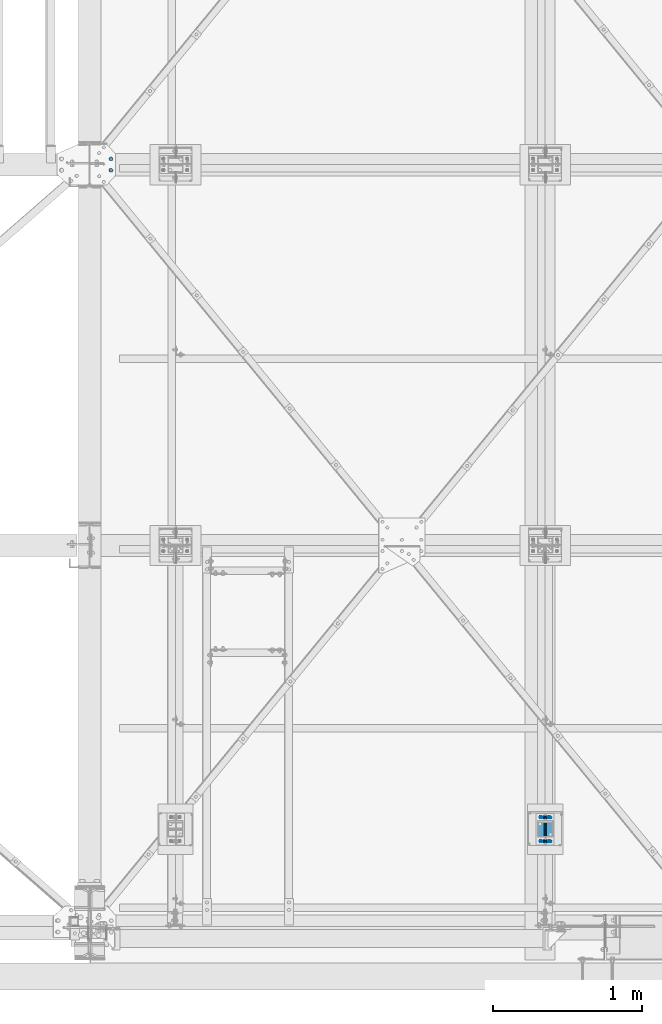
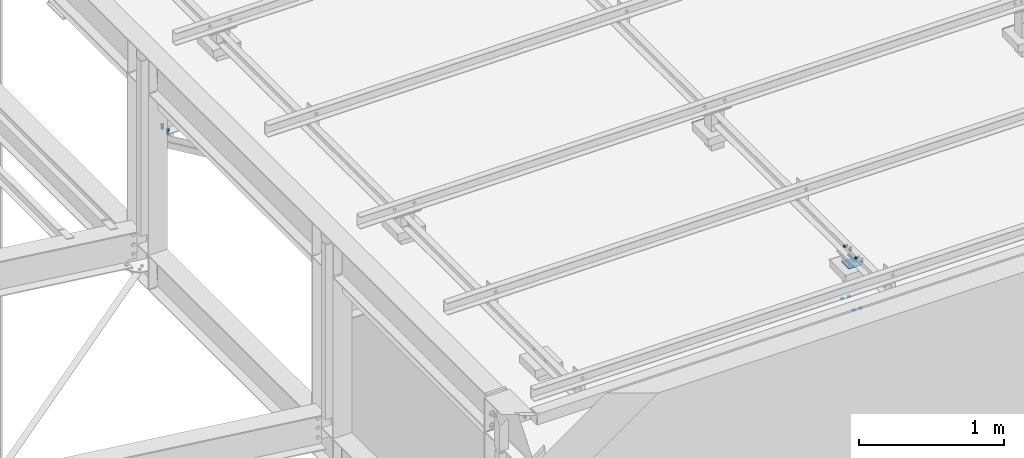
# One storey, part 306 of 3134: 6 mechanical fasteners, 4 elements without a shape of their own.
"""IFC2X3 building model written with IfcOpenShell, lengths in millimetres."""

from ifc_helpers import new_model, si_unit, frame, origin_with_axes, place, context, subcontext, project, spatial, faceted_brep, source, transform, mapped, material, type_object, element, aggregate, save


model = new_model("IFC2X3")

# Units and contexts
model_context = context("Model", 3, precision=1e-05, world=origin_with_axes())
body_context = subcontext(model_context, "Body", "Model", "MODEL_VIEW")
ifc_project = project(units=[si_unit("LENGTHUNIT", "METRE", prefix="MILLI"), si_unit("AREAUNIT", "SQUARE_METRE"), si_unit("VOLUMEUNIT", "CUBIC_METRE"), si_unit("MASSUNIT", "GRAM", prefix="KILO"), si_unit("TIMEUNIT", "SECOND"), si_unit("PLANEANGLEUNIT", "RADIAN"), si_unit("SOLIDANGLEUNIT", "STERADIAN"), si_unit("THERMODYNAMICTEMPERATUREUNIT", "DEGREE_CELSIUS"), si_unit("LUMINOUSINTENSITYUNIT", "LUMEN")], contexts=[model_context])

# Site, building, storey
site_placement = place(None, origin_with_axes())
site = spatial("IfcSite", under=ifc_project, at=site_placement, CompositionType="ELEMENT")
building_placement = place(site_placement, origin_with_axes())
building = spatial("IfcBuilding", under=site, at=building_placement, Name="Undefined", CompositionType="ELEMENT")
storey_placement = place(building_placement, origin_with_axes())
storey = spatial("IfcBuildingStorey", under=building, at=storey_placement, Name="Undefined", CompositionType="ELEMENT", Elevation=0.0)

# Assembly, mechanical fastener
assembly_1_placement = place(storey_placement, origin_with_axes())
assembly_1 = element("IfcElementAssembly", 1, at=assembly_1_placement, inside=storey, AssemblyPlace="NOTDEFINED", PredefinedType="RIGID_FRAME")
ifc_material_1 = material(Name="8.8")
mechanical_fastener_type = type_object("IfcMechanicalFastenerType", Name="Bolt assembly")
shared_shape_1 = source(origin_with_axes(), body_context, "Body", "Brep", [
    faceted_brep([(10.9696551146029, -14.0, 0.0), (5.48482755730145, -14.0, 9.5), (-5.48482755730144, -14.0, 9.5), (-10.9696551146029, -14.0, 1.34339530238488e-15), (-5.48482755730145, -14.0, -9.5), (5.48482755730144, -14.0, -9.50000000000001), (5.48482755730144, -6.0, -9.50000000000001), (-5.48482755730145, -6.0, -9.5), (-10.9696551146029, -6.0, 1.34339530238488e-15), (-5.48482755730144, -6.0, 9.5), (5.48482755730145, -6.0, 9.5), (10.9696551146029, -6.0, 0.0), (6.0, -6.0, 0.0), (5.19615242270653, -6.0, 3.00000000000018), (2.99999999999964, -6.0, 5.19615242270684), (-6.21801588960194e-13, -6.0, 6.0), (-3.00000000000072, -6.0, 5.19615242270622), (-5.19615242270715, -6.0, 2.9999999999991), (-6.0, -6.0, -1.24360317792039e-12), (-5.19615242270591, -6.0, -3.00000000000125), (-2.99999999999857, -6.0, -5.19615242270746), (1.85874342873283e-12, -6.0, -6.0), (3.00000000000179, -6.0, -5.1961524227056), (5.19615242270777, -6.0, -2.99999999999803), (5.19615242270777, 24.0, -2.99999999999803), (3.00000000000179, 24.0, -5.1961524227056), (1.85874342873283e-12, 24.0, -6.0), (-2.99999999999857, 24.0, -5.19615242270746), (-5.19615242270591, 24.0, -3.00000000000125), (-6.0, 24.0, -1.24360317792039e-12), (-5.19615242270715, 24.0, 2.9999999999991), (-3.00000000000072, 24.0, 5.19615242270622), (-6.21801588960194e-13, 24.0, 6.0), (2.99999999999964, 24.0, 5.19615242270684), (5.19615242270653, 24.0, 3.00000000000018), (6.0, 24.0, 0.0), (10.9696551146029, 6.00000000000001, 0.0), (5.48482755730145, 6.00000000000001, 9.5), (-5.48482755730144, 6.00000000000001, 9.5), (-10.9696551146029, 6.00000000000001, 1.34339530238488e-15), (-5.48482755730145, 6.00000000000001, -9.5), (5.48482755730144, 6.00000000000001, -9.50000000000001), (5.48482755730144, 16.0, -9.50000000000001), (-5.48482755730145, 16.0, -9.5), (-10.9696551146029, 16.0, 1.34339530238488e-15), (-5.48482755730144, 16.0, 9.5), (5.48482755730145, 16.0, 9.5), (10.9696551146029, 16.0, 0.0)], [[[0, 1, 2, 3, 4, 5]], [[6, 7, 8, 9, 10, 11]], [[0, 11, 10, 1]], [[1, 10, 9, 2]], [[2, 9, 8, 3]], [[3, 8, 7, 4]], [[4, 7, 6, 5]], [[5, 6, 11, 0]], [[12, 13, 14, 15, 16, 17, 18, 19, 20, 21, 22, 23]], [[24, 25, 26, 27, 28, 29, 30, 31, 32, 33, 34, 35]], [[12, 35, 34, 13]], [[13, 34, 33, 14]], [[14, 33, 32, 15]], [[15, 32, 31, 16]], [[16, 31, 30, 17]], [[17, 30, 29, 18]], [[18, 29, 28, 19]], [[19, 28, 27, 20]], [[20, 27, 26, 21]], [[21, 26, 25, 22]], [[22, 25, 24, 23]], [[23, 24, 35, 12]], [[36, 37, 38, 39, 40, 41]], [[42, 43, 44, 45, 46, 47]], [[36, 47, 46, 37]], [[37, 46, 45, 38]], [[38, 45, 44, 39]], [[39, 44, 43, 40]], [[40, 43, 42, 41]], [[41, 42, 47, 36]]]),
    faceted_brep([(7.0, -5.9, 0.0), (6.06217782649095, -5.9, 3.50000000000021), (3.49999999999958, -5.9, 6.06217782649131), (-7.25435187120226e-13, -5.9, 7.0), (-3.50000000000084, -5.9, 6.06217782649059), (-6.06217782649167, -5.9, 3.49999999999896), (-7.0, -5.9, -1.45087037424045e-12), (-6.06217782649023, -5.9, -3.50000000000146), (-3.49999999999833, -5.9, -6.06217782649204), (2.1685340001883e-12, -5.9, -7.0), (3.50000000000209, -5.9, -6.06217782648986), (6.0621778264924, -5.9, -3.4999999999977), (6.0621778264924, 0.0999999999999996, -3.4999999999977), (3.50000000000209, 0.0999999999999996, -6.06217782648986), (2.1685340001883e-12, 0.0999999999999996, -7.0), (-3.49999999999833, 0.0999999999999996, -6.06217782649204), (-6.06217782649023, 0.0999999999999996, -3.50000000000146), (-7.0, 0.0999999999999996, -1.45087037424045e-12), (-6.06217782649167, 0.0999999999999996, 3.49999999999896), (-3.50000000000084, 0.0999999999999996, 6.06217782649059), (-7.25435187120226e-13, 0.0999999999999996, 7.0), (3.49999999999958, 0.0999999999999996, 6.06217782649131), (6.06217782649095, 0.0999999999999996, 3.50000000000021), (7.0, 0.0999999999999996, 0.0), (7.0, -0.1, 0.0), (6.06217782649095, -0.1, 3.50000000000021), (3.49999999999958, -0.1, 6.06217782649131), (-7.25435187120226e-13, -0.1, 7.0), (-3.50000000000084, -0.1, 6.06217782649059), (-6.06217782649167, -0.1, 3.49999999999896), (-7.0, -0.1, -1.45087037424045e-12), (-6.06217782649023, -0.1, -3.50000000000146), (-3.49999999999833, -0.1, -6.06217782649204), (2.1685340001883e-12, -0.1, -7.0), (3.50000000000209, -0.1, -6.06217782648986), (6.0621778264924, -0.1, -3.4999999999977), (6.0621778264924, 6.00000000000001, -3.4999999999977), (3.50000000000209, 6.00000000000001, -6.06217782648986), (2.1685340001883e-12, 6.00000000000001, -7.0), (-3.49999999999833, 6.00000000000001, -6.06217782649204), (-6.06217782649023, 6.00000000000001, -3.50000000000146), (-7.0, 6.00000000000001, -1.45087037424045e-12), (-6.06217782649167, 6.00000000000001, 3.49999999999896), (-3.50000000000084, 6.00000000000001, 6.06217782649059), (-7.25435187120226e-13, 6.00000000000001, 7.0), (3.49999999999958, 6.00000000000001, 6.06217782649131), (6.06217782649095, 6.00000000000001, 3.50000000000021), (7.0, 6.00000000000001, 0.0)], [[[0, 1, 2, 3, 4, 5, 6, 7, 8, 9, 10, 11]], [[12, 13, 14, 15, 16, 17, 18, 19, 20, 21, 22, 23]], [[0, 23, 22, 1]], [[1, 22, 21, 2]], [[2, 21, 20, 3]], [[3, 20, 19, 4]], [[4, 19, 18, 5]], [[5, 18, 17, 6]], [[6, 17, 16, 7]], [[7, 16, 15, 8]], [[8, 15, 14, 9]], [[9, 14, 13, 10]], [[10, 13, 12, 11]], [[11, 12, 23, 0]], [[24, 25, 26, 27, 28, 29, 30, 31, 32, 33, 34, 35]], [[36, 37, 38, 39, 40, 41, 42, 43, 44, 45, 46, 47]], [[24, 47, 46, 25]], [[25, 46, 45, 26]], [[26, 45, 44, 27]], [[27, 44, 43, 28]], [[28, 43, 42, 29]], [[29, 42, 41, 30]], [[30, 41, 40, 31]], [[31, 40, 39, 32]], [[32, 39, 38, 33]], [[33, 38, 37, 34]], [[34, 37, 36, 35]], [[35, 36, 47, 24]]]),
])
mechanical_fastener_1_placement = place(assembly_1_placement, frame((70635.0, 570.0, 5750.0), z_axis=(-1.0, 0.0, 0.0), x_axis=(0.0, 1.0, 0.0)))
mechanical_fastener_1 = element("IfcMechanicalFastener", 2, at=mechanical_fastener_1_placement, type_object=mechanical_fastener_type, material=ifc_material_1, Name="Bolt assembly", NominalDiameter=12.0, NominalLength=30.0, context=body_context, shape_type="MappedRepresentation", body=[
    mapped(shared_shape_1, transform((0.0, 0.0, 0.0))),
    mapped(shared_shape_1, transform((160.0, 0.0, 0.0))),
])

assembly_2_placement = place(storey_placement, origin_with_axes())
assembly_2 = element("IfcElementAssembly", 3, at=assembly_2_placement, inside=storey, AssemblyPlace="NOTDEFINED", PredefinedType="RIGID_FRAME")
shared_shape_2 = source(origin_with_axes(), body_context, "Body", "Brep", [
    faceted_brep([(10.9696551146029, -14.0, 0.0), (5.48482755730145, -14.0, 9.5), (-5.48482755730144, -14.0, 9.5), (-10.9696551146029, -14.0, 1.34339530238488e-15), (-5.48482755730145, -14.0, -9.5), (5.48482755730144, -14.0, -9.50000000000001), (5.48482755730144, -6.0, -9.50000000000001), (-5.48482755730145, -6.0, -9.5), (-10.9696551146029, -6.0, 1.34339530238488e-15), (-5.48482755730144, -6.0, 9.5), (5.48482755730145, -6.0, 9.5), (10.9696551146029, -6.0, 0.0), (6.0, -6.0, 0.0), (5.19615242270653, -6.0, 3.00000000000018), (2.99999999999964, -6.0, 5.19615242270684), (-6.21801588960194e-13, -6.0, 6.0), (-3.00000000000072, -6.0, 5.19615242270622), (-5.19615242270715, -6.0, 2.9999999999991), (-6.0, -6.0, -1.24360317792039e-12), (-5.19615242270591, -6.0, -3.00000000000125), (-2.99999999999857, -6.0, -5.19615242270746), (1.85874342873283e-12, -6.0, -6.0), (3.00000000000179, -6.0, -5.1961524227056), (5.19615242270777, -6.0, -2.99999999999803), (5.19615242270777, 19.0, -2.99999999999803), (3.00000000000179, 19.0, -5.1961524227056), (1.85874342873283e-12, 19.0, -6.0), (-2.99999999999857, 19.0, -5.19615242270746), (-5.19615242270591, 19.0, -3.00000000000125), (-6.0, 19.0, -1.24360317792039e-12), (-5.19615242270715, 19.0, 2.9999999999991), (-3.00000000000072, 19.0, 5.19615242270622), (-6.21801588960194e-13, 19.0, 6.0), (2.99999999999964, 19.0, 5.19615242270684), (5.19615242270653, 19.0, 3.00000000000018), (6.0, 19.0, 0.0), (10.9696551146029, 4.00000000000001, 0.0), (5.48482755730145, 4.00000000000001, 9.5), (-5.48482755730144, 4.00000000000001, 9.5), (-10.9696551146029, 4.00000000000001, 1.34339530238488e-15), (-5.48482755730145, 4.00000000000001, -9.5), (5.48482755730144, 4.00000000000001, -9.50000000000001), (5.48482755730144, 14.0, -9.50000000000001), (-5.48482755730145, 14.0, -9.5), (-10.9696551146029, 14.0, 1.34339530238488e-15), (-5.48482755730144, 14.0, 9.5), (5.48482755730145, 14.0, 9.5), (10.9696551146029, 14.0, 0.0)], [[[0, 1, 2, 3, 4, 5]], [[6, 7, 8, 9, 10, 11]], [[0, 11, 10, 1]], [[1, 10, 9, 2]], [[2, 9, 8, 3]], [[3, 8, 7, 4]], [[4, 7, 6, 5]], [[5, 6, 11, 0]], [[12, 13, 14, 15, 16, 17, 18, 19, 20, 21, 22, 23]], [[24, 25, 26, 27, 28, 29, 30, 31, 32, 33, 34, 35]], [[12, 35, 34, 13]], [[13, 34, 33, 14]], [[14, 33, 32, 15]], [[15, 32, 31, 16]], [[16, 31, 30, 17]], [[17, 30, 29, 18]], [[18, 29, 28, 19]], [[19, 28, 27, 20]], [[20, 27, 26, 21]], [[21, 26, 25, 22]], [[22, 25, 24, 23]], [[23, 24, 35, 12]], [[36, 37, 38, 39, 40, 41]], [[42, 43, 44, 45, 46, 47]], [[36, 47, 46, 37]], [[37, 46, 45, 38]], [[38, 45, 44, 39]], [[39, 44, 43, 40]], [[40, 43, 42, 41]], [[41, 42, 47, 36]]]),
    faceted_brep([(7.0, -0.1, 0.0), (6.06217782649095, -0.1, 3.50000000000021), (3.49999999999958, -0.1, 6.06217782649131), (-7.25435187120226e-13, -0.1, 7.0), (-3.50000000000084, -0.1, 6.06217782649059), (-6.06217782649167, -0.1, 3.49999999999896), (-7.0, -0.1, -1.45087037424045e-12), (-6.06217782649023, -0.1, -3.50000000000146), (-3.49999999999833, -0.1, -6.06217782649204), (2.1685340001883e-12, -0.1, -7.0), (3.50000000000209, -0.1, -6.06217782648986), (6.0621778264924, -0.1, -3.4999999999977), (6.0621778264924, 4.00000000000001, -3.4999999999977), (3.50000000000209, 4.00000000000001, -6.06217782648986), (2.1685340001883e-12, 4.00000000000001, -7.0), (-3.49999999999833, 4.00000000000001, -6.06217782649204), (-6.06217782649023, 4.00000000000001, -3.50000000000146), (-7.0, 4.00000000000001, -1.45087037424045e-12), (-6.06217782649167, 4.00000000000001, 3.49999999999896), (-3.50000000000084, 4.00000000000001, 6.06217782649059), (-7.25435187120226e-13, 4.00000000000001, 7.0), (3.49999999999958, 4.00000000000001, 6.06217782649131), (6.06217782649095, 4.00000000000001, 3.50000000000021), (7.0, 4.00000000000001, 0.0), (7.0, -5.9, 0.0), (6.06217782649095, -5.9, 3.50000000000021), (3.49999999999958, -5.9, 6.06217782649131), (-7.25435187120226e-13, -5.9, 7.0), (-3.50000000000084, -5.9, 6.06217782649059), (-6.06217782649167, -5.9, 3.49999999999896), (-7.0, -5.9, -1.45087037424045e-12), (-6.06217782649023, -5.9, -3.50000000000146), (-3.49999999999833, -5.9, -6.06217782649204), (2.1685340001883e-12, -5.9, -7.0), (3.50000000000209, -5.9, -6.06217782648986), (6.0621778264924, -5.9, -3.4999999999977), (6.0621778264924, 0.0999999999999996, -3.4999999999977), (3.50000000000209, 0.0999999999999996, -6.06217782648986), (2.1685340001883e-12, 0.0999999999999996, -7.0), (-3.49999999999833, 0.0999999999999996, -6.06217782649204), (-6.06217782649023, 0.0999999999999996, -3.50000000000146), (-7.0, 0.0999999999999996, -1.45087037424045e-12), (-6.06217782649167, 0.0999999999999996, 3.49999999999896), (-3.50000000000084, 0.0999999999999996, 6.06217782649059), (-7.25435187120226e-13, 0.0999999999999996, 7.0), (3.49999999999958, 0.0999999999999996, 6.06217782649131), (6.06217782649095, 0.0999999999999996, 3.50000000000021), (7.0, 0.0999999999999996, 0.0)], [[[0, 1, 2, 3, 4, 5, 6, 7, 8, 9, 10, 11]], [[12, 13, 14, 15, 16, 17, 18, 19, 20, 21, 22, 23]], [[0, 23, 22, 1]], [[1, 22, 21, 2]], [[2, 21, 20, 3]], [[3, 20, 19, 4]], [[4, 19, 18, 5]], [[5, 18, 17, 6]], [[6, 17, 16, 7]], [[7, 16, 15, 8]], [[8, 15, 14, 9]], [[9, 14, 13, 10]], [[10, 13, 12, 11]], [[11, 12, 23, 0]], [[24, 25, 26, 27, 28, 29, 30, 31, 32, 33, 34, 35]], [[36, 37, 38, 39, 40, 41, 42, 43, 44, 45, 46, 47]], [[24, 47, 46, 25]], [[25, 46, 45, 26]], [[26, 45, 44, 27]], [[27, 44, 43, 28]], [[28, 43, 42, 29]], [[29, 42, 41, 30]], [[30, 41, 40, 31]], [[31, 40, 39, 32]], [[32, 39, 38, 33]], [[33, 38, 37, 34]], [[34, 37, 36, 35]], [[35, 36, 47, 24]]]),
])
mechanical_fastener_2_placement = place(assembly_2_placement, frame((70600.0, 570.0, 5785.0), z_axis=(0.0, 0.0, 1.0), x_axis=(0.0, 1.0, 0.0)))
mechanical_fastener_2 = element("IfcMechanicalFastener", 4, at=mechanical_fastener_2_placement, type_object=mechanical_fastener_type, material=ifc_material_1, Name="Bolt assembly", NominalDiameter=12.0, NominalLength=25.0, context=body_context, shape_type="MappedRepresentation", body=[
    mapped(shared_shape_2, transform((0.0, 0.0, 0.0))),
    mapped(shared_shape_2, transform((160.0, 0.0, 0.0))),
])
aggregate(assembly_2, [mechanical_fastener_2])

assembly_3_placement = place(storey_placement, origin_with_axes())
assembly_3 = element("IfcElementAssembly", 5, at=assembly_3_placement, inside=storey, Name="300", AssemblyPlace="NOTDEFINED", PredefinedType="RIGID_FRAME")
shared_shape_3 = source(origin_with_axes(), body_context, "Body", "Brep", [
    faceted_brep([(13.856406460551, -23.1999997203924, 0.0), (6.92820323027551, -23.1999997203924, 12.0), (-6.92820323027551, -23.1999997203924, 12.0), (-13.856406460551, -23.1999997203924, 1.69692038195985e-15), (-6.92820323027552, -23.1999997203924, -12.0), (6.9282032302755, -23.1999997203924, -12.0), (6.9282032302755, -13.1999997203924, -12.0), (-6.92820323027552, -13.1999997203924, -12.0), (-13.856406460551, -13.1999997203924, 1.69692038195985e-15), (-6.92820323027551, -13.1999997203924, 12.0), (6.92820323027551, -13.1999997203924, 12.0), (13.856406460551, -13.1999997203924, 0.0), (8.0, -13.1999997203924, 0.0), (6.92820323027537, -13.1999997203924, 4.00000000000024), (3.99999999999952, -13.1999997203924, 6.92820323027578), (-8.29068785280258e-13, -13.1999997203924, 8.0), (-4.00000000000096, -13.1999997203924, 6.92820323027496), (-6.9282032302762, -13.1999997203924, 3.99999999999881), (-8.0, -13.1999997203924, -1.65813757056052e-12), (-6.92820323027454, -13.1999997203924, -4.00000000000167), (-3.99999999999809, -13.1999997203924, -6.92820323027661), (2.47832457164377e-12, -13.1999997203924, -8.0), (4.00000000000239, -13.1999997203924, -6.92820323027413), (6.92820323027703, -13.1999997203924, -3.99999999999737), (6.92820323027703, 21.8000002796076, -3.99999999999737), (4.00000000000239, 21.8000002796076, -6.92820323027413), (2.47832457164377e-12, 21.8000002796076, -8.0), (-3.99999999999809, 21.8000002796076, -6.92820323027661), (-6.92820323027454, 21.8000002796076, -4.00000000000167), (-8.0, 21.8000002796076, -1.65813757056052e-12), (-6.9282032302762, 21.8000002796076, 3.99999999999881), (-4.00000000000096, 21.8000002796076, 6.92820323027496), (-8.29068785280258e-13, 21.8000002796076, 8.0), (3.99999999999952, 21.8000002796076, 6.92820323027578), (6.92820323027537, 21.8000002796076, 4.00000000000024), (8.0, 21.8000002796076, 0.0), (13.856406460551, 3.99999999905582, 0.0), (6.92820323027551, 3.99999999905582, 12.0), (-6.92820323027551, 3.99999999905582, 12.0), (-13.856406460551, 3.99999999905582, 1.69692038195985e-15), (-6.92820323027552, 3.99999999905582, -12.0), (6.9282032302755, 3.99999999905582, -12.0), (6.9282032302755, 16.9999999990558, -12.0), (-6.92820323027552, 16.9999999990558, -12.0), (-13.856406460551, 16.9999999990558, 1.69692038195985e-15), (-6.92820323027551, 16.9999999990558, 12.0), (6.92820323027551, 16.9999999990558, 12.0), (13.856406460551, 16.9999999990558, 0.0)], [[[0, 1, 2, 3, 4, 5]], [[6, 7, 8, 9, 10, 11]], [[0, 11, 10, 1]], [[1, 10, 9, 2]], [[2, 9, 8, 3]], [[3, 8, 7, 4]], [[4, 7, 6, 5]], [[5, 6, 11, 0]], [[12, 13, 14, 15, 16, 17, 18, 19, 20, 21, 22, 23]], [[24, 25, 26, 27, 28, 29, 30, 31, 32, 33, 34, 35]], [[12, 35, 34, 13]], [[13, 34, 33, 14]], [[14, 33, 32, 15]], [[15, 32, 31, 16]], [[16, 31, 30, 17]], [[17, 30, 29, 18]], [[18, 29, 28, 19]], [[19, 28, 27, 20]], [[20, 27, 26, 21]], [[21, 26, 25, 22]], [[22, 25, 24, 23]], [[23, 24, 35, 12]], [[36, 37, 38, 39, 40, 41]], [[42, 43, 44, 45, 46, 47]], [[36, 47, 46, 37]], [[37, 46, 45, 38]], [[38, 45, 44, 39]], [[39, 44, 43, 40]], [[40, 43, 42, 41]], [[41, 42, 47, 36]]]),
    faceted_brep([(9.0, -13.0999997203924, 0.0), (7.79422863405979, -13.0999997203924, 4.50000000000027), (4.49999999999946, -13.0999997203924, 7.79422863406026), (-9.3270238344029e-13, -13.0999997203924, 9.0), (-4.50000000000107, -13.0999997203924, 7.79422863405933), (-7.79422863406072, -13.0999997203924, 4.49999999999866), (-9.0, -13.0999997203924, -1.86540476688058e-12), (-7.79422863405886, -13.0999997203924, -4.50000000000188), (-4.49999999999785, -13.0999997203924, -7.79422863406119), (2.78811514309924e-12, -13.0999997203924, -9.0), (4.50000000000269, -13.0999997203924, -7.7942286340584), (7.79422863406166, -13.0999997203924, -4.49999999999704), (7.79422863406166, -3.9, -4.49999999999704), (4.50000000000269, -3.9, -7.7942286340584), (2.78811514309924e-12, -3.9, -9.0), (-4.49999999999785, -3.9, -7.79422863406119), (-7.79422863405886, -3.9, -4.50000000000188), (-9.0, -3.9, -1.86540476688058e-12), (-7.79422863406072, -3.9, 4.49999999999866), (-4.50000000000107, -3.9, 7.79422863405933), (-9.3270238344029e-13, -3.9, 9.0), (4.49999999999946, -3.9, 7.79422863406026), (7.79422863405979, -3.9, 4.50000000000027), (9.0, -3.9, 0.0), (9.0, -4.10000000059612, 0.0), (7.79422863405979, -4.10000000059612, 4.50000000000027), (4.49999999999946, -4.10000000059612, 7.79422863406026), (-9.3270238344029e-13, -4.10000000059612, 9.0), (-4.50000000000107, -4.10000000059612, 7.79422863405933), (-7.79422863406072, -4.10000000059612, 4.49999999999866), (-9.0, -4.10000000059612, -1.86540476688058e-12), (-7.79422863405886, -4.10000000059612, -4.50000000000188), (-4.49999999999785, -4.10000000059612, -7.79422863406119), (2.78811514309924e-12, -4.10000000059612, -9.0), (4.50000000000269, -4.10000000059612, -7.7942286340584), (7.79422863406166, -4.10000000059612, -4.49999999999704), (7.79422863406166, 4.00000375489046, -4.49999999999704), (4.50000000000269, 4.00000375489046, -7.7942286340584), (2.78811514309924e-12, 4.00000375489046, -9.0), (-4.49999999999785, 4.00000375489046, -7.79422863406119), (-7.79422863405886, 4.00000375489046, -4.50000000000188), (-9.0, 4.00000375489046, -1.86540476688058e-12), (-7.79422863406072, 4.00000375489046, 4.49999999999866), (-4.50000000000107, 4.00000375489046, 7.79422863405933), (-9.3270238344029e-13, 4.00000375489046, 9.0), (4.49999999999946, 4.00000375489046, 7.79422863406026), (7.79422863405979, 4.00000375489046, 4.50000000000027), (9.0, 4.00000375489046, 0.0)], [[[0, 1, 2, 3, 4, 5, 6, 7, 8, 9, 10, 11]], [[12, 13, 14, 15, 16, 17, 18, 19, 20, 21, 22, 23]], [[0, 23, 22, 1]], [[1, 22, 21, 2]], [[2, 21, 20, 3]], [[3, 20, 19, 4]], [[4, 19, 18, 5]], [[5, 18, 17, 6]], [[6, 17, 16, 7]], [[7, 16, 15, 8]], [[8, 15, 14, 9]], [[9, 14, 13, 10]], [[10, 13, 12, 11]], [[11, 12, 23, 0]], [[24, 25, 26, 27, 28, 29, 30, 31, 32, 33, 34, 35]], [[36, 37, 38, 39, 40, 41, 42, 43, 44, 45, 46, 47]], [[24, 47, 46, 25]], [[25, 46, 45, 26]], [[26, 45, 44, 27]], [[27, 44, 43, 28]], [[28, 43, 42, 29]], [[29, 42, 41, 30]], [[30, 41, 40, 31]], [[31, 40, 39, 32]], [[32, 39, 38, 33]], [[33, 38, 37, 34]], [[34, 37, 36, 35]], [[35, 36, 47, 24]]]),
])
mechanical_fastener_3_placement = place(assembly_3_placement, frame((67692.8635821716, 5100.0, 5134.42663526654), z_axis=(0.0, 1.0, 0.0), x_axis=(0.999519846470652, 0.0, -0.0309851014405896)))
mechanical_fastener_3 = element("IfcMechanicalFastener", 6, at=mechanical_fastener_3_placement, type_object=mechanical_fastener_type, material=ifc_material_1, Name="Bolt assembly", NominalDiameter=16.0, NominalLength=35.0, context=body_context, shape_type="MappedRepresentation", body=[
    mapped(shared_shape_3, transform((0.0, 0.0, -38.0))),
    mapped(shared_shape_3, transform((0.0, 0.0, 38.0))),
])
aggregate(assembly_3, [mechanical_fastener_3])

assembly_4_placement = place(storey_placement, origin_with_axes())
assembly_4 = element("IfcElementAssembly", 7, at=assembly_4_placement, inside=storey, AssemblyPlace="NOTDEFINED", PredefinedType="RIGID_FRAME")
shared_shape_4 = source(origin_with_axes(), body_context, "Body", "Brep", [
    faceted_brep([(7.0, 13.0000253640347, 0.0), (6.06217782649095, 13.0000253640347, 3.50000000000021), (3.49999999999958, 13.0000253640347, 6.06217782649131), (-7.25435187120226e-13, 13.0000253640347, 7.0), (-3.50000000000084, 13.0000253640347, 6.06217782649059), (-6.06217782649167, 13.0000253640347, 3.49999999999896), (-7.0, 13.0000253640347, -1.45087037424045e-12), (-6.06217782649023, 13.0000253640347, -3.50000000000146), (-3.49999999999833, 13.0000253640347, -6.06217782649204), (2.1685340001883e-12, 13.0000253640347, -7.0), (3.50000000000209, 13.0000253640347, -6.06217782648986), (6.0621778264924, 13.0000253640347, -3.4999999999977), (6.0621778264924, 15.0999999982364, -3.4999999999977), (3.50000000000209, 15.0999999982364, -6.06217782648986), (2.1685340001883e-12, 15.0999999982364, -7.0), (-3.49999999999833, 15.0999999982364, -6.06217782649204), (-6.06217782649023, 15.0999999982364, -3.50000000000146), (-7.0, 15.0999999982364, -1.45087037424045e-12), (-6.06217782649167, 15.0999999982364, 3.49999999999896), (-3.50000000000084, 15.0999999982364, 6.06217782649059), (-7.25435187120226e-13, 15.0999999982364, 7.0), (3.49999999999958, 15.0999999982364, 6.06217782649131), (6.06217782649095, 15.0999999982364, 3.50000000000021), (7.0, 15.0999999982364, 0.0)], [[[0, 1, 2, 3, 4, 5, 6, 7, 8, 9, 10, 11]], [[12, 13, 14, 15, 16, 17, 18, 19, 20, 21, 22, 23]], [[0, 23, 22, 1]], [[1, 22, 21, 2]], [[2, 21, 20, 3]], [[3, 20, 19, 4]], [[4, 19, 18, 5]], [[5, 18, 17, 6]], [[6, 17, 16, 7]], [[7, 16, 15, 8]], [[8, 15, 14, 9]], [[9, 14, 13, 10]], [[10, 13, 12, 11]], [[11, 12, 23, 0]]]),
])
mechanical_fastener_4_placement = place(assembly_4_placement, frame((70571.3602034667, 649.998364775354, 5333.31493090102), z_axis=(0.0, -1.0, 0.0), x_axis=(0.999519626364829, 0.0, -0.030992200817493)))
mechanical_fastener_4 = element("IfcMechanicalFastener", 8, at=mechanical_fastener_4_placement, type_object=mechanical_fastener_type, material=ifc_material_1, Name="Bolt assembly", NominalDiameter=12.0, NominalLength=2.0, context=body_context, shape_type="MappedRepresentation", body=[
    mapped(shared_shape_4, transform((0.0, -5.32963895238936e-10, -79.9999999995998))),
    mapped(shared_shape_4, transform((55.9999999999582, 4.54747350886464e-13, -80.0))),
    mapped(shared_shape_4, transform((0.0, 5.3114490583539e-10, 79.9999999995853))),
    mapped(shared_shape_4, transform((55.9999999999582, 4.54747350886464e-13, 80.0))),
])
aggregate(assembly_4, [mechanical_fastener_4])

# Mechanical fastener
shared_shape_5 = source(origin_with_axes(), body_context, "Body", "Brep", [
    faceted_brep([(9.0, -50.0, 0.0), (7.79422863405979, -50.0, 4.50000000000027), (4.49999999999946, -50.0, 7.79422863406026), (-9.3270238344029e-13, -50.0, 9.0), (-4.50000000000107, -50.0, 7.79422863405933), (-7.79422863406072, -50.0, 4.49999999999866), (-9.0, -50.0, -1.86540476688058e-12), (-7.79422863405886, -50.0, -4.50000000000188), (-4.49999999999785, -50.0, -7.79422863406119), (2.78811514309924e-12, -50.0, -9.0), (4.50000000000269, -50.0, -7.7942286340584), (7.79422863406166, -50.0, -4.49999999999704), (7.79422863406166, 50.1, -4.49999999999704), (4.50000000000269, 50.1, -7.7942286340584), (2.78811514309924e-12, 50.1, -9.0), (-4.49999999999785, 50.1, -7.79422863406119), (-7.79422863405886, 50.1, -4.50000000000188), (-9.0, 50.1, -1.86540476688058e-12), (-7.79422863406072, 50.1, 4.49999999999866), (-4.50000000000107, 50.1, 7.79422863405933), (-9.3270238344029e-13, 50.1, 9.0), (4.49999999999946, 50.1, 7.79422863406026), (7.79422863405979, 50.1, 4.50000000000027), (9.0, 50.1, 0.0)], [[[0, 1, 2, 3, 4, 5, 6, 7, 8, 9, 10, 11]], [[12, 13, 14, 15, 16, 17, 18, 19, 20, 21, 22, 23]], [[0, 23, 22, 1]], [[1, 22, 21, 2]], [[2, 21, 20, 3]], [[3, 20, 19, 4]], [[4, 19, 18, 5]], [[5, 18, 17, 6]], [[6, 17, 16, 7]], [[7, 16, 15, 8]], [[8, 15, 14, 9]], [[9, 14, 13, 10]], [[10, 13, 12, 11]], [[11, 12, 23, 0]]]),
])
mechanical_fastener_5_placement = place(assembly_1_placement, frame((70600.0, 650.0, 5730.0), z_axis=(-1.0, 0.0, 0.0), x_axis=(0.0, 0.0, 1.0)))
mechanical_fastener_5 = element("IfcMechanicalFastener", 9, at=mechanical_fastener_5_placement, type_object=mechanical_fastener_type, material=ifc_material_1, Name="Bolt assembly", NominalDiameter=16.0, NominalLength=100.0, context=body_context, shape_type="MappedRepresentation", body=[
    mapped(shared_shape_5, transform((0.0, 0.0, 0.0))),
])

ifc_material_2 = material(Name="6.8")
shared_shape_6 = source(origin_with_axes(), body_context, "Body", "Brep", [
    faceted_brep([(51.5, 1.36424205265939e-12, 50.0), (51.3858192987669, 1.36424205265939e-12, 50.5740251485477), (51.0606601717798, 1.36424205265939e-12, 51.0606601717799), (50.5740251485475, 1.36424205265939e-12, 51.385819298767), (-50.0000000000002, 1.36424205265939e-12, 51.5), (-50.7500000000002, 1.36424205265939e-12, 51.2990381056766), (-51.2990381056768, 1.36424205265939e-12, 50.7499999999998), (-51.5, 1.36424205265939e-12, 49.9999999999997), (-51.5, 1.36424205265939e-12, -50.0000000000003), (-51.2990381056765, 1.36424205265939e-12, -50.7500000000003), (-50.7499999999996, 1.36424205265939e-12, -51.2990381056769), (-49.9999999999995, 1.36424205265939e-12, -51.5), (50.0000000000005, 1.36424205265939e-12, -51.5), (50.7500000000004, 1.36424205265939e-12, -51.2990381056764), (51.2990381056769, 1.36424205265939e-12, -50.7499999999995), (51.5, 1.36424205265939e-12, -49.9999999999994), (51.5, 5.10000000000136, -49.9999999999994), (51.2990381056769, 5.10000000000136, -50.7499999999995), (50.7500000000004, 5.10000000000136, -51.2990381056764), (50.0000000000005, 5.10000000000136, -51.5), (-49.9999999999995, 5.10000000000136, -51.5), (-50.7499999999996, 5.10000000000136, -51.2990381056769), (-51.2990381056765, 5.10000000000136, -50.7500000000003), (-51.5, 5.10000000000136, -50.0000000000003), (-51.5, 5.10000000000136, 49.9999999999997), (-51.2990381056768, 5.10000000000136, 50.7499999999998), (-50.7500000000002, 5.10000000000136, 51.2990381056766), (-50.0000000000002, 5.10000000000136, 51.5), (50.5740251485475, 5.10000000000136, 51.385819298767), (51.0606601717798, 5.10000000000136, 51.0606601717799), (51.3858192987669, 5.10000000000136, 50.5740251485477), (51.5, 5.10000000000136, 50.0)], [[[0, 1, 2, 3, 4, 5, 6, 7, 8, 9, 10, 11, 12, 13, 14, 15]], [[16, 17, 18, 19, 20, 21, 22, 23, 24, 25, 26, 27, 28, 29, 30, 31]], [[0, 31, 30, 1]], [[1, 30, 29, 2]], [[2, 29, 28, 3]], [[3, 28, 27, 4]], [[4, 27, 26, 5]], [[5, 26, 25, 6]], [[6, 25, 24, 7]], [[7, 24, 23, 8]], [[8, 23, 22, 9]], [[9, 22, 21, 10]], [[10, 21, 20, 11]], [[11, 20, 19, 12]], [[12, 19, 18, 13]], [[13, 18, 17, 14]], [[14, 17, 16, 15]], [[15, 16, 31, 0]]]),
])
mechanical_fastener_6_placement = place(assembly_1_placement, frame((70600.0, 650.0, 5687.16), z_axis=(0.0, -1.0, 0.0), x_axis=(-1.0, 0.0, 0.0)))
mechanical_fastener_6 = element("IfcMechanicalFastener", 10, at=mechanical_fastener_6_placement, type_object=mechanical_fastener_type, material=ifc_material_2, Name="Bolt assembly", NominalDiameter=10.0, NominalLength=5.0, context=body_context, shape_type="MappedRepresentation", body=[
    mapped(shared_shape_6, transform((0.0, 0.0, 0.0))),
])

aggregate(assembly_1, [mechanical_fastener_5, mechanical_fastener_1, mechanical_fastener_6])

save(model, "model.ifc")
